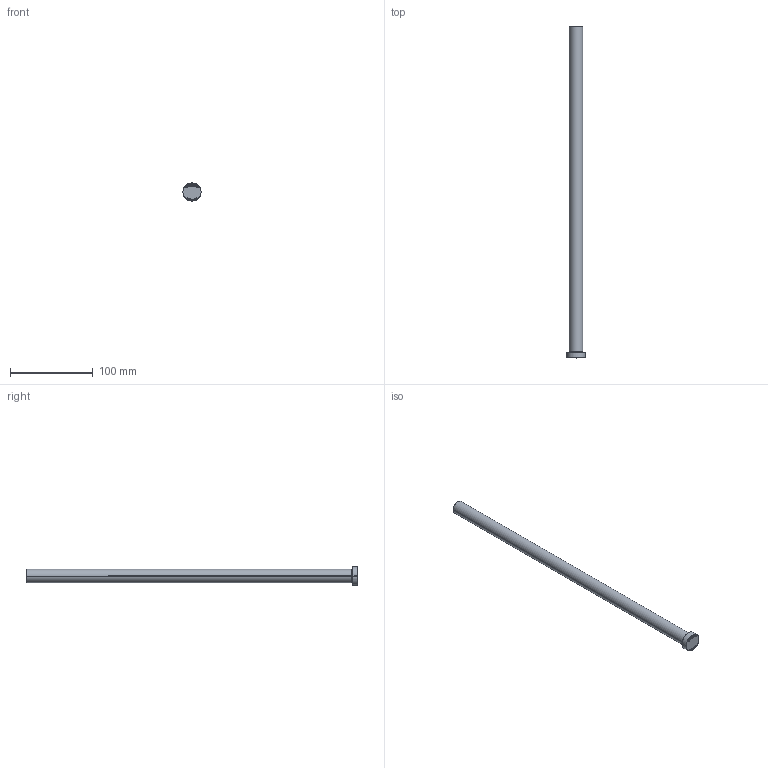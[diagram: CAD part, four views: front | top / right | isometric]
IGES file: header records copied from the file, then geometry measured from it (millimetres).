
Start section: SolidWorks IGES file using analytic representation for surfaces
Global section: file name: C:\Users\User\Downloads\Matripeça 31-08 tar\PB - PINO EXTRATOR TIPO _B_ (CATÁLOGO)\PB16,0\PB16,0400.IGS; native system: SolidWorks 2024; preprocessor: SolidWorks 2024; author: User; date: 260901.155246; units: millimetre
Bounding box: 22 x 400 x 22 mm (x, y, z)
Surface area: 20998.6 mm2 (no closed solid volume)
Topology: 0 solids, 0 shells, 399 faces, 4124 edges, 4124 vertices
Faces by surface type: bspline 385, revolution 14
